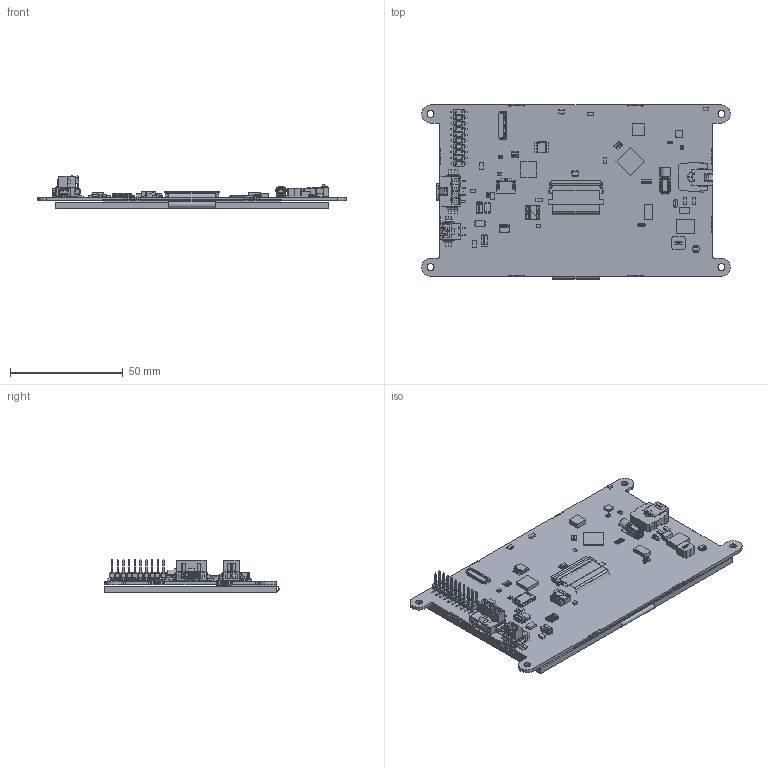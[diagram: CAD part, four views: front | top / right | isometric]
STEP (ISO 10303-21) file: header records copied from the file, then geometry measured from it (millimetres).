
FILE_DESCRIPTION (( 'STEP AP214' ), '1' );
FILE_NAME ('EVE3x50A-IPS-TPN RevA.STEP', '2025-06-25T21:05:18', ( '' ), ( '' ), 'SwSTEP 2.0', 'SolidWorks 2021', '' );
FILE_SCHEMA (( 'AUTOMOTIVE_DESIGN' ));
Length unit declared in the file: millimetre
Products named in the file (3): EVE3x50A R1.0.4 Assembly; EVE3x50A-IPS-TPN RevA; MOPTFT800480-50 (IPS)
Assembly tree (2 placements, depth 2):
  EVE3x50A-IPS-TPN RevA
    EVE3x50A R1.0.4 Assembly
    MOPTFT800480-50 (IPS)
Bounding box: 136.7 x 77.06 x 14.57 mm (x, y, z)
Volume: 27550.4 mm3; surface area: 55048.8 mm2
Topology: 4 solids, 183 shells, 10520 faces, 27327 edges, 17337 vertices
Faces by surface type: plane 7650, cylinder 1503, bspline 1205, sphere 114, torus 32, cone 16
Entity records: 472132 total; most frequent: CARTESIAN_POINT 112975, ORIENTED_EDGE 54298, DIRECTION 44993, EDGE_CURVE 27247, LINE 20805, VECTOR 20805, VERTEX_POINT 17337, AXIS2_PLACEMENT_3D 12094
